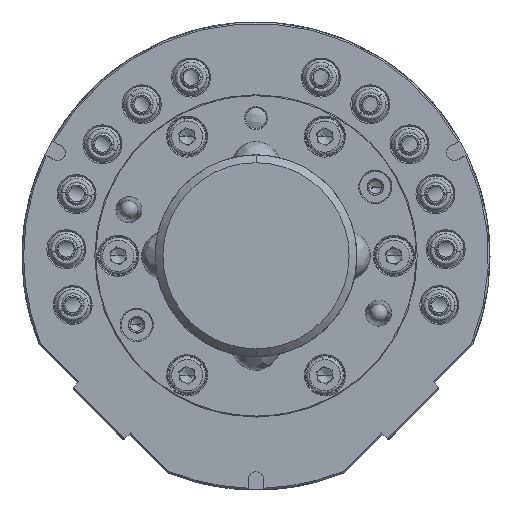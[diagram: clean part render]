
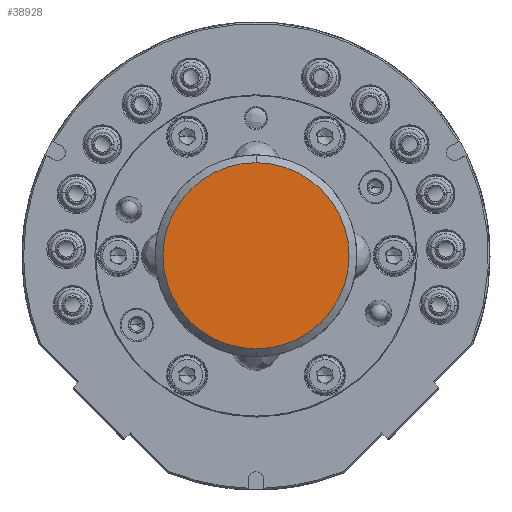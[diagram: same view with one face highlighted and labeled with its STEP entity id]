
A CAD part, top view. The second image highlights one B-rep face of the part: STEP entity #38928.
In plain terms, the highlighted planar face has unit normal (0, 0, 1).
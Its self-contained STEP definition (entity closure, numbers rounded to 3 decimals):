
#2121 = CARTESIAN_POINT ( 'NONE',  ( -8.971, -15.534, 13.5 ) ) ;
#2335 = CARTESIAN_POINT ( 'NONE',  ( -17.327, 4.641, 13.5 ) ) ;
#2534 = CARTESIAN_POINT ( 'NONE',  ( -1.172, 17.9, 13.5 ) ) ;
#3452 = CARTESIAN_POINT ( 'NONE',  ( 0., 17.9, 13.5 ) ) ;
#6693 = B_SPLINE_CURVE_WITH_KNOTS ( 'NONE', 3,
 ( #16397, #20661, #54003, #25988, #58522, #30693, #2121, #35474, #6964, #40197, #11775, #44874, #16600, #49538, #21476, #54195, #26192, #58709, #30900, #2335, #35672, #7179, #40402, #11986, #45070, #16810, #49749, #21678, #54389, #26403, #58903, #31106, #2534, #35870 ),
 .UNSPECIFIED., .F., .F.,
 ( 4, 2, 2, 2, 2, 2, 2, 2, 2, 2, 2, 2, 2, 2, 2, 2, 4 ),
 ( 0.75, 0.781, 0.812, 0.844, 0.875, 0.906, 0.937, 0.969, 1., 1.031, 1.063, 1.094, 1.125, 1.156, 1.188, 1.219, 1.25 ),
 .UNSPECIFIED. ) ;
#6964 = CARTESIAN_POINT ( 'NONE',  ( -11.829, -13.486, 13.5 ) ) ;
#7179 = CARTESIAN_POINT ( 'NONE',  ( -16.089, 7.932, 13.5 ) ) ;
#9577 = EDGE_LOOP ( 'NONE', ( #22795, #33751 ) ) ;
#11775 = CARTESIAN_POINT ( 'NONE',  ( -14.232, -10.919, 13.5 ) ) ;
#11986 = CARTESIAN_POINT ( 'NONE',  ( -14.232, 10.919, 13.5 ) ) ;
#12137 = CARTESIAN_POINT ( 'NONE',  ( 0., -17.9, 13.5 ) ) ;
#13620 = VERTEX_POINT ( 'NONE', #3452 ) ;
#15106 = EDGE_CURVE ( 'NONE', #13620, #18042, #35306, .T. ) ;
#16397 = CARTESIAN_POINT ( 'NONE',  ( 0., -17.9, 13.5 ) ) ;
#16600 = CARTESIAN_POINT ( 'NONE',  ( -16.089, -7.932, 13.5 ) ) ;
#16810 = CARTESIAN_POINT ( 'NONE',  ( -11.829, 13.486, 13.5 ) ) ;
#18042 = VERTEX_POINT ( 'NONE', #12137 ) ;
#18136 = CARTESIAN_POINT ( 'NONE',  ( 0., 17.9, 13.5 ) ) ;
#18373 = CARTESIAN_POINT ( 'NONE',  ( 1.172, 17.9, 13.5 ) ) ;
#19007 = CARTESIAN_POINT ( 'NONE',  ( 2.343, 17.785, 13.5 ) ) ;
#19146 = CARTESIAN_POINT ( 'NONE',  ( 4.641, 17.327, 13.5 ) ) ;
#19341 = CARTESIAN_POINT ( 'NONE',  ( 5.768, 16.986, 13.5 ) ) ;
#19416 = CARTESIAN_POINT ( 'NONE',  ( 7.932, 16.089, 13.5 ) ) ;
#19536 = CARTESIAN_POINT ( 'NONE',  ( 8.971, 15.534, 13.5 ) ) ;
#19671 = CARTESIAN_POINT ( 'NONE',  ( 10.919, 14.232, 13.5 ) ) ;
#19820 = CARTESIAN_POINT ( 'NONE',  ( 11.829, 13.486, 13.5 ) ) ;
#20078 = CARTESIAN_POINT ( 'NONE',  ( 13.486, 11.829, 13.5 ) ) ;
#20150 = CARTESIAN_POINT ( 'NONE',  ( 14.232, 10.919, 13.5 ) ) ;
#20285 = CARTESIAN_POINT ( 'NONE',  ( 15.534, 8.971, 13.5 ) ) ;
#20362 = CARTESIAN_POINT ( 'NONE',  ( 16.089, 7.932, 13.5 ) ) ;
#20488 = CARTESIAN_POINT ( 'NONE',  ( 16.986, 5.768, 13.5 ) ) ;
#20559 = CARTESIAN_POINT ( 'NONE',  ( 17.327, 4.641, 13.5 ) ) ;
#20652 = CARTESIAN_POINT ( 'NONE',  ( 17.785, 2.343, 13.5 ) ) ;
#20661 = CARTESIAN_POINT ( 'NONE',  ( -1.172, -17.9, 13.5 ) ) ;
#20778 = CARTESIAN_POINT ( 'NONE',  ( 17.9, 1.172, 13.5 ) ) ;
#20864 = CARTESIAN_POINT ( 'NONE',  ( 17.9, -1.172, 13.5 ) ) ;
#21047 = CARTESIAN_POINT ( 'NONE',  ( 17.785, -2.343, 13.5 ) ) ;
#21103 = CARTESIAN_POINT ( 'NONE',  ( 17.327, -4.641, 13.5 ) ) ;
#21179 = CARTESIAN_POINT ( 'NONE',  ( 16.986, -5.768, 13.5 ) ) ;
#21313 = CARTESIAN_POINT ( 'NONE',  ( 16.089, -7.932, 13.5 ) ) ;
#21452 = CARTESIAN_POINT ( 'NONE',  ( 15.534, -8.971, 13.5 ) ) ;
#21476 = CARTESIAN_POINT ( 'NONE',  ( -17.327, -4.641, 13.5 ) ) ;
#21516 = CARTESIAN_POINT ( 'NONE',  ( 14.232, -10.919, 13.5 ) ) ;
#21580 = CARTESIAN_POINT ( 'NONE',  ( 13.486, -11.829, 13.5 ) ) ;
#21667 = CARTESIAN_POINT ( 'NONE',  ( 11.829, -13.486, 13.5 ) ) ;
#21678 = CARTESIAN_POINT ( 'NONE',  ( -8.971, 15.534, 13.5 ) ) ;
#21729 = FACE_OUTER_BOUND ( 'NONE', #9577, .T. ) ;
#21777 = CARTESIAN_POINT ( 'NONE',  ( 10.919, -14.232, 13.5 ) ) ;
#21869 = CARTESIAN_POINT ( 'NONE',  ( 8.971, -15.534, 13.5 ) ) ;
#21988 = CARTESIAN_POINT ( 'NONE',  ( 7.932, -16.089, 13.5 ) ) ;
#22119 = CARTESIAN_POINT ( 'NONE',  ( 5.768, -16.986, 13.5 ) ) ;
#22268 = CARTESIAN_POINT ( 'NONE',  ( 4.641, -17.327, 13.5 ) ) ;
#22333 = CARTESIAN_POINT ( 'NONE',  ( 2.343, -17.785, 13.5 ) ) ;
#22401 = CARTESIAN_POINT ( 'NONE',  ( 1.172, -17.9, 13.5 ) ) ;
#22480 = CARTESIAN_POINT ( 'NONE',  ( 0., -17.9, 13.5 ) ) ;
#22795 = ORIENTED_EDGE ( 'NONE', *, *, #15106, .F. ) ;
#25988 = CARTESIAN_POINT ( 'NONE',  ( -4.641, -17.327, 13.5 ) ) ;
#26192 = CARTESIAN_POINT ( 'NONE',  ( -17.9, -1.172, 13.5 ) ) ;
#26403 = CARTESIAN_POINT ( 'NONE',  ( -5.768, 16.986, 13.5 ) ) ;
#26836 = DIRECTION ( 'NONE',  ( 0., 0., -1. ) ) ;
#30693 = CARTESIAN_POINT ( 'NONE',  ( -7.932, -16.089, 13.5 ) ) ;
#30900 = CARTESIAN_POINT ( 'NONE',  ( -17.785, 2.343, 13.5 ) ) ;
#31106 = CARTESIAN_POINT ( 'NONE',  ( -2.343, 17.785, 13.5 ) ) ;
#33751 = ORIENTED_EDGE ( 'NONE', *, *, #59239, .F. ) ;
#35306 = B_SPLINE_CURVE_WITH_KNOTS ( 'NONE', 3,
 ( #18136, #18373, #19007, #19146, #19341, #19416, #19536, #19671, #19820, #20078, #20150, #20285, #20362, #20488, #20559, #20652, #20778, #20864, #21047, #21103, #21179, #21313, #21452, #21516, #21580, #21667, #21777, #21869, #21988, #22119, #22268, #22333, #22401, #22480 ),
 .UNSPECIFIED., .F., .F.,
 ( 4, 2, 2, 2, 2, 2, 2, 2, 2, 2, 2, 2, 2, 2, 2, 2, 4 ),
 ( 0.25, 0.281, 0.313, 0.344, 0.375, 0.406, 0.438, 0.469, 0.5, 0.531, 0.563, 0.594, 0.625, 0.656, 0.688, 0.719, 0.75 ),
 .UNSPECIFIED. ) ;
#35474 = CARTESIAN_POINT ( 'NONE',  ( -10.919, -14.232, 13.5 ) ) ;
#35672 = CARTESIAN_POINT ( 'NONE',  ( -16.986, 5.768, 13.5 ) ) ;
#35870 = CARTESIAN_POINT ( 'NONE',  ( 0., 17.9, 13.5 ) ) ;
#37272 = AXIS2_PLACEMENT_3D ( 'NONE', #54835, #26836, #59330 ) ;
#38928 = ADVANCED_FACE ( 'NONE', ( #21729 ), #54420, .F. ) ;
#40197 = CARTESIAN_POINT ( 'NONE',  ( -13.486, -11.829, 13.5 ) ) ;
#40402 = CARTESIAN_POINT ( 'NONE',  ( -15.534, 8.971, 13.5 ) ) ;
#44874 = CARTESIAN_POINT ( 'NONE',  ( -15.534, -8.971, 13.5 ) ) ;
#45070 = CARTESIAN_POINT ( 'NONE',  ( -13.486, 11.829, 13.5 ) ) ;
#49538 = CARTESIAN_POINT ( 'NONE',  ( -16.986, -5.768, 13.5 ) ) ;
#49749 = CARTESIAN_POINT ( 'NONE',  ( -10.919, 14.232, 13.5 ) ) ;
#54003 = CARTESIAN_POINT ( 'NONE',  ( -2.343, -17.785, 13.5 ) ) ;
#54195 = CARTESIAN_POINT ( 'NONE',  ( -17.785, -2.343, 13.5 ) ) ;
#54389 = CARTESIAN_POINT ( 'NONE',  ( -7.932, 16.089, 13.5 ) ) ;
#54420 = PLANE ( 'NONE',  #37272 ) ;
#54835 = CARTESIAN_POINT ( 'NONE',  ( 0., 0., 13.5 ) ) ;
#58522 = CARTESIAN_POINT ( 'NONE',  ( -5.768, -16.986, 13.5 ) ) ;
#58709 = CARTESIAN_POINT ( 'NONE',  ( -17.9, 1.172, 13.5 ) ) ;
#58903 = CARTESIAN_POINT ( 'NONE',  ( -4.641, 17.327, 13.5 ) ) ;
#59239 = EDGE_CURVE ( 'NONE', #18042, #13620, #6693, .T. ) ;
#59330 = DIRECTION ( 'NONE',  ( -1., 0., 0. ) ) ;
